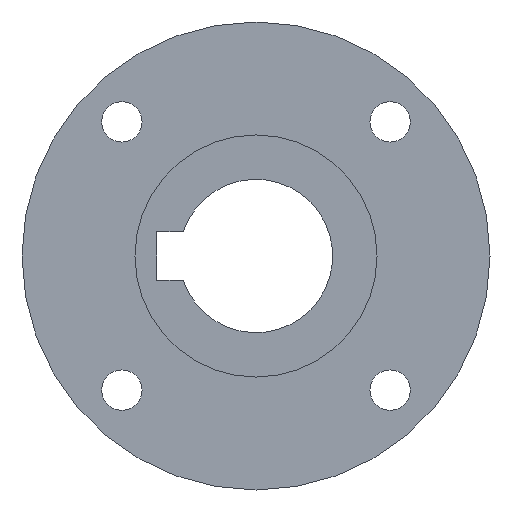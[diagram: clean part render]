
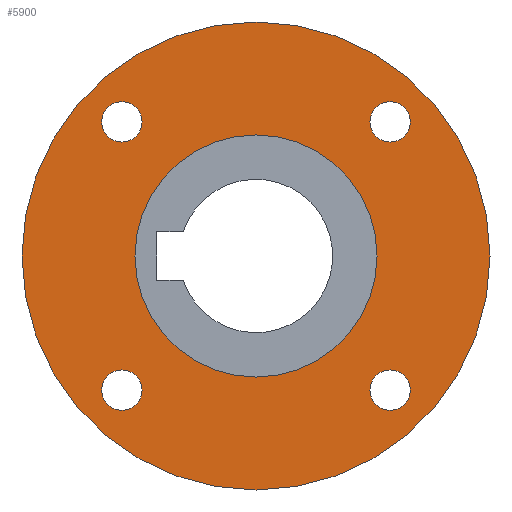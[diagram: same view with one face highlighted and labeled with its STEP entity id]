
A CAD part, left-side view. The second image highlights one B-rep face of the part: STEP entity #5900.
In plain terms, the highlighted planar face has unit normal (-1, 0, 0).
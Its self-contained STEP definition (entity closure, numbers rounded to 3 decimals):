
#4820=CARTESIAN_POINT('',(1.4,-29.,0.));
#4830=VERTEX_POINT('',#4820);
#4860=CARTESIAN_POINT('',(1.4,0.,0.));
#4870=DIRECTION('',(1.,0.,0.));
#4880=DIRECTION('',(0.,-1.,0.));
#4890=AXIS2_PLACEMENT_3D('',#4860,#4870,#4880);
#4900=CIRCLE('',#4890,29.);
#4910=CARTESIAN_POINT('',(1.4,29.,0.));
#4920=VERTEX_POINT('',#4910);
#4930=EDGE_CURVE('',#4920,#4830,#4900,.T.);
#5050=CARTESIAN_POINT('',(1.4,-22.,0.));
#5060=DIRECTION('',(-1.,0.,0.));
#5070=DIRECTION('',(0.,1.,0.));
#5080=AXIS2_PLACEMENT_3D('',#5050,#5060,#5070);
#5090=PLANE('',#5080);
#5100=CARTESIAN_POINT('',(1.4,0.,0.));
#5110=DIRECTION('',(1.,0.,0.));
#5120=DIRECTION('',(0.,-1.,0.));
#5130=AXIS2_PLACEMENT_3D('',#5100,#5110,#5120);
#5140=CIRCLE('',#5130,15.);
#5150=CARTESIAN_POINT('',(1.4,15.,0.));
#5160=VERTEX_POINT('',#5150);
#5170=CARTESIAN_POINT('',(1.4,-15.,
0.));
#5180=VERTEX_POINT('',#5170);
#5190=EDGE_CURVE('',#5160,#5180,#5140,.T.);
#5200=ORIENTED_EDGE('',*,*,#5190,.T.);
#5210=EDGE_CURVE('',#5180,#5160,#5140,.T.);
#5220=ORIENTED_EDGE('',*,*,#5210,.T.);
#5230=EDGE_LOOP('',(#5220,#5200));
#5240=FACE_BOUND('',#5230,.T.);
#5250=ORIENTED_EDGE('',*,*,#4930,.F.);
#5260=EDGE_CURVE('',#4830,#4920,#4900,.T.);
#5270=ORIENTED_EDGE('',*,*,#5260,.F.);
#5280=EDGE_LOOP('',(#5270,#5250));
#5290=FACE_OUTER_BOUND('',#5280,.T.);
#5300=CARTESIAN_POINT('',(1.4,-16.617,
16.617));
#5310=DIRECTION('',(-1.,0.,0.));
#5320=DIRECTION('',(0.,0.,-1.));
#5330=AXIS2_PLACEMENT_3D('',#5300,#5310,#5320);
#5340=CIRCLE('',#5330,2.5);
#5350=CARTESIAN_POINT('',(1.4,-16.617,
14.117));
#5360=VERTEX_POINT('',#5350);
#5370=CARTESIAN_POINT('',(1.4,-16.617,
19.117));
#5380=VERTEX_POINT('',#5370);
#5390=EDGE_CURVE('',#5360,#5380,#5340,.T.);
#5400=ORIENTED_EDGE('',*,*,#5390,.F.);
#5410=EDGE_CURVE('',#5380,#5360,#5340,.T.);
#5420=ORIENTED_EDGE('',*,*,#5410,.F.);
#5430=EDGE_LOOP('',(#5420,#5400));
#5440=FACE_BOUND('',#5430,.T.);
#5450=CARTESIAN_POINT('',(1.4,16.617,
-16.617));
#5460=DIRECTION('',(-1.,0.,0.));
#5470=DIRECTION('',(0.,0.,1.));
#5480=AXIS2_PLACEMENT_3D('',#5450,#5460,#5470);
#5490=CIRCLE('',#5480,2.5);
#5500=CARTESIAN_POINT('',(1.4,16.617,
-14.117));
#5510=VERTEX_POINT('',#5500);
#5520=CARTESIAN_POINT('',(1.4,16.617,
-19.117));
#5530=VERTEX_POINT('',#5520);
#5540=EDGE_CURVE('',#5510,#5530,#5490,.T.);
#5550=ORIENTED_EDGE('',*,*,#5540,.F.);
#5560=EDGE_CURVE('',#5530,#5510,#5490,.T.);
#5570=ORIENTED_EDGE('',*,*,#5560,.F.);
#5580=EDGE_LOOP('',(#5570,#5550));
#5590=FACE_BOUND('',#5580,.T.);
#5600=CARTESIAN_POINT('',(1.4,16.617,
16.617));
#5610=DIRECTION('',(-1.,0.,0.));
#5620=DIRECTION('',(0.,-1.,0.));
#5630=AXIS2_PLACEMENT_3D('',#5600,#5610,#5620);
#5640=CIRCLE('',#5630,2.5);
#5650=CARTESIAN_POINT('',(1.4,14.117,
16.617));
#5660=VERTEX_POINT('',#5650);
#5670=CARTESIAN_POINT('',(1.4,19.117,
16.617));
#5680=VERTEX_POINT('',#5670);
#5690=EDGE_CURVE('',#5660,#5680,#5640,.T.);
#5700=ORIENTED_EDGE('',*,*,#5690,.F.);
#5710=EDGE_CURVE('',#5680,#5660,#5640,.T.);
#5720=ORIENTED_EDGE('',*,*,#5710,.F.);
#5730=EDGE_LOOP('',(#5720,#5700));
#5740=FACE_BOUND('',#5730,.T.);
#5750=CARTESIAN_POINT('',(1.4,-16.617,
-16.617));
#5760=DIRECTION('',(-1.,0.,0.));
#5770=DIRECTION('',(0.,1.,0.));
#5780=AXIS2_PLACEMENT_3D('',#5750,#5760,#5770);
#5790=CIRCLE('',#5780,2.5);
#5800=CARTESIAN_POINT('',(1.4,-14.117,
-16.617));
#5810=VERTEX_POINT('',#5800);
#5820=CARTESIAN_POINT('',(1.4,-19.117,
-16.617));
#5830=VERTEX_POINT('',#5820);
#5840=EDGE_CURVE('',#5810,#5830,#5790,.T.);
#5850=ORIENTED_EDGE('',*,*,#5840,.F.);
#5860=EDGE_CURVE('',#5830,#5810,#5790,.T.);
#5870=ORIENTED_EDGE('',*,*,#5860,.F.);
#5880=EDGE_LOOP('',(#5870,#5850));
#5890=FACE_BOUND('',#5880,.T.);
#5900=ADVANCED_FACE('',(#5240,#5290,#5440,#5590,#5740,#5890),#5090,.T.);
